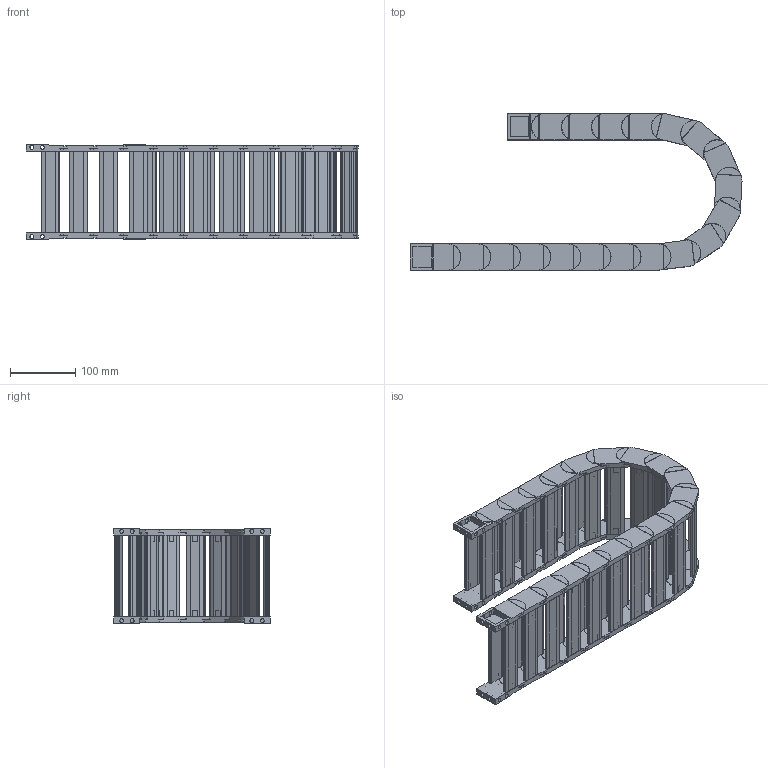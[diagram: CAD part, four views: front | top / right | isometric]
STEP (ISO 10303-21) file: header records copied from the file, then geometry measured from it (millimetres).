
FILE_DESCRIPTION((''),'2;1');
FILE_NAME('HD25-R100-ZPT_ASM','2022-09-04T16:44:57',('admin'),(''),'CREO PARAMETRIC BY PTC INC, 2021164','CREO PARAMETRIC BY PTC INC, 2021164','');
FILE_SCHEMA(('CONFIG_CONTROL_DESIGN','GEOMETRIC_VALIDATION_PROPERTIES_MIM'));
Length unit declared in the file: millimetre
Products named in the file (6): HD-25_8; 25XL-QSYP-103; HD25_ASM; H25-T1; H25-T2; HD25-R100-ZPT_ASM
Assembly tree (24 placements, depth 3):
  HD25-R100-ZPT_ASM
    HD25_ASM  x18
      HD-25_8
      25XL-QSYP-103
    H25-T1
    H25-T2
    25XL-QSYP-103  x2
Bounding box: 508.67 x 239.42 x 146.2 mm (x, y, z)
Volume: 1294207.1 mm3; surface area: 656831.2 mm2
Topology: 80 solids, 80 shells, 1738 faces, 4501 edges, 3007 vertices
Faces by surface type: plane 1298, cylinder 440
Entity records: 9894 total; most frequent: CARTESIAN_POINT 1451, DIRECTION 1394, ORIENTED_EDGE 1336, EDGE_CURVE 668, VECTOR 498, LINE 498, AXIS2_PLACEMENT_3D 448, VERTEX_POINT 446
